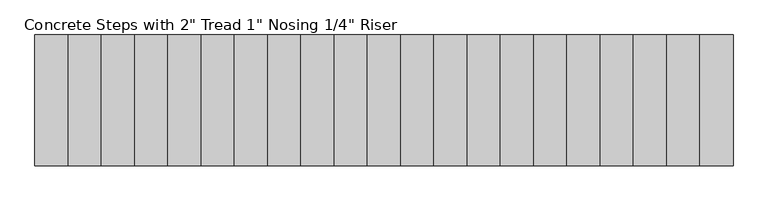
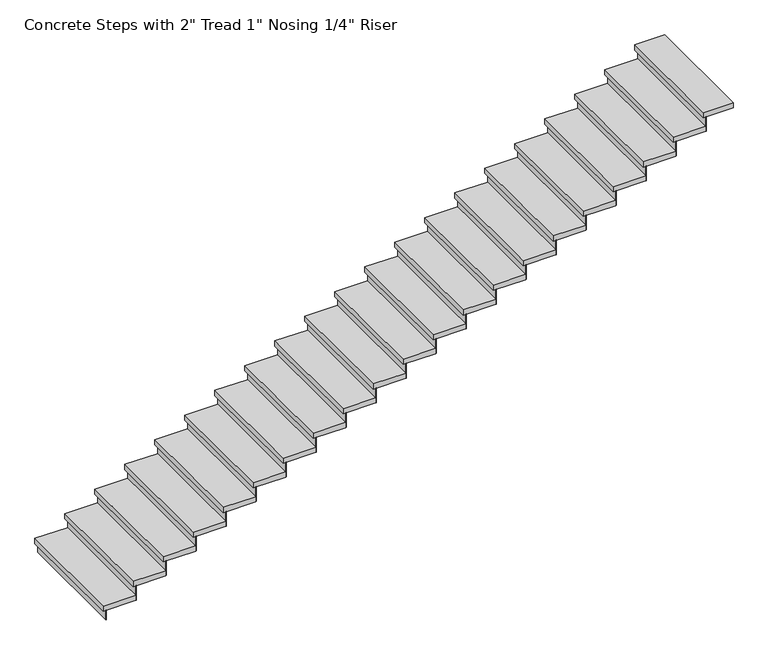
"""IFC4 building model written with IfcOpenShell, lengths in millimetres: stair flight geometry."""

from ifc_helpers import new_model, si_unit, frame, origin, origin_with_axes, place, context, project, spatial, polyline, outline, extrude, source, transform, mapped, element, save


def stair_flight_34399b1a(model_context):
    return source(origin(), model_context, "Body", "SweptSolid", [
        extrude(outline(polyline([(-38912.5313244, 8376.9937722), (-38918.8813244, 8376.9937722), (-38918.8813244, 9475.3937722), (-38912.5313244, 9475.3937722), (-38912.5313244, 8376.9937722)])), origin_with_axes(), (0.0, 0.0, 1.0), 94.3428571),
        extrude(outline(polyline([(-38639.4813244, 9475.3937722), (-38639.4813244, 8376.9937722), (-38944.2813244, 8376.9937722), (-38944.2813244, 9475.3937722), (-38639.4813244, 9475.3937722)])), frame((0.0, 0.0, 94.3428571), z_axis=(0.0, 0.0, 1.0), x_axis=(1.0, 0.0, 0.0)), (0.0, 0.0, 1.0), 50.8),
        extrude(outline(polyline([(-38633.1313244, 8376.9937722), (-38639.4813244, 8376.9937722), (-38639.4813244, 9475.3937722), (-38633.1313244, 9475.3937722), (-38633.1313244, 8376.9937722)])), frame((0.0, 0.0, 94.3428571), z_axis=(0.0, 0.0, 1.0), x_axis=(1.0, 0.0, 0.0)), (0.0, 0.0, 1.0), 145.1428571),
        extrude(outline(polyline([(-38360.0813244, 9475.3937722), (-38360.0813244, 8376.9937722), (-38664.8813244, 8376.9937722), (-38664.8813244, 9475.3937722), (-38360.0813244, 9475.3937722)])), frame((0.0, 0.0, 239.4857143), z_axis=(0.0, 0.0, 1.0), x_axis=(1.0, 0.0, 0.0)), (0.0, 0.0, 1.0), 50.8),
        extrude(outline(polyline([(-38353.7313244, 8376.9937722), (-38360.0813244, 8376.9937722), (-38360.0813244, 9475.3937722), (-38353.7313244, 9475.3937722), (-38353.7313244, 8376.9937722)])), frame((0.0, 0.0, 239.4857143), z_axis=(0.0, 0.0, 1.0), x_axis=(1.0, 0.0, 0.0)), (0.0, 0.0, 1.0), 145.1428571),
        extrude(outline(polyline([(-38080.6813244, 9475.3937722), (-38080.6813244, 8376.9937722), (-38385.4813244, 8376.9937722), (-38385.4813244, 9475.3937722), (-38080.6813244, 9475.3937722)])), frame((0.0, 0.0, 384.6285714), z_axis=(0.0, 0.0, 1.0), x_axis=(1.0, 0.0, 0.0)), (0.0, 0.0, 1.0), 50.8),
        extrude(outline(polyline([(-38074.3313244, 8376.9937722), (-38080.6813244, 8376.9937722), (-38080.6813244, 9475.3937722), (-38074.3313244, 9475.3937722), (-38074.3313244, 8376.9937722)])), frame((0.0, 0.0, 384.6285714), z_axis=(0.0, 0.0, 1.0), x_axis=(1.0, 0.0, 0.0)), (0.0, 0.0, 1.0), 145.1428571),
        extrude(outline(polyline([(-37801.2813244, 9475.3937722), (-37801.2813244, 8376.9937722), (-38106.0813244, 8376.9937722), (-38106.0813244, 9475.3937722), (-37801.2813244, 9475.3937722)])), frame((0.0, 0.0, 529.7714286), z_axis=(0.0, 0.0, 1.0), x_axis=(1.0, 0.0, 0.0)), (0.0, 0.0, 1.0), 50.8),
        extrude(outline(polyline([(-37794.9313244, 8376.9937722), (-37801.2813244, 8376.9937722), (-37801.2813244, 9475.3937722), (-37794.9313244, 9475.3937722), (-37794.9313244, 8376.9937722)])), frame((0.0, 0.0, 529.7714286), z_axis=(0.0, 0.0, 1.0), x_axis=(1.0, 0.0, 0.0)), (0.0, 0.0, 1.0), 145.1428571),
        extrude(outline(polyline([(-37521.8813244, 9475.3937722), (-37521.8813244, 8376.9937722), (-37826.6813244, 8376.9937722), (-37826.6813244, 9475.3937722), (-37521.8813244, 9475.3937722)])), frame((0.0, 0.0, 674.9142857), z_axis=(0.0, 0.0, 1.0), x_axis=(1.0, 0.0, 0.0)), (0.0, 0.0, 1.0), 50.8),
        extrude(outline(polyline([(-37515.5313244, 8376.9937722), (-37521.8813244, 8376.9937722), (-37521.8813244, 9475.3937722), (-37515.5313244, 9475.3937722), (-37515.5313244, 8376.9937722)])), frame((0.0, 0.0, 674.9142857), z_axis=(0.0, 0.0, 1.0), x_axis=(1.0, 0.0, 0.0)), (0.0, 0.0, 1.0), 145.1428571),
        extrude(outline(polyline([(-37242.4813244, 9475.3937722), (-37242.4813244, 8376.9937722), (-37547.2813244, 8376.9937722), (-37547.2813244, 9475.3937722), (-37242.4813244, 9475.3937722)])), frame((0.0, 0.0, 820.0571429), z_axis=(0.0, 0.0, 1.0), x_axis=(1.0, 0.0, 0.0)), (0.0, 0.0, 1.0), 50.8),
        extrude(outline(polyline([(-37236.1313244, 8376.9937722), (-37242.4813244, 8376.9937722), (-37242.4813244, 9475.3937722), (-37236.1313244, 9475.3937722), (-37236.1313244, 8376.9937722)])), frame((0.0, 0.0, 820.0571429), z_axis=(0.0, 0.0, 1.0), x_axis=(1.0, 0.0, 0.0)), (0.0, 0.0, 1.0), 145.1428571),
        extrude(outline(polyline([(-36963.0813244, 9475.3937722), (-36963.0813244, 8376.9937722), (-37267.8813244, 8376.9937722), (-37267.8813244, 9475.3937722), (-36963.0813244, 9475.3937722)])), frame((0.0, 0.0, 965.2), z_axis=(0.0, 0.0, 1.0), x_axis=(1.0, 0.0, 0.0)), (0.0, 0.0, 1.0), 50.8),
        extrude(outline(polyline([(-36956.7313244, 8376.9937722), (-36963.0813244, 8376.9937722), (-36963.0813244, 9475.3937722), (-36956.7313244, 9475.3937722), (-36956.7313244, 8376.9937722)])), frame((0.0, 0.0, 965.2), z_axis=(0.0, 0.0, 1.0), x_axis=(1.0, 0.0, 0.0)), (0.0, 0.0, 1.0), 145.1428571),
        extrude(outline(polyline([(-36683.6813244, 9475.3937722), (-36683.6813244, 8376.9937722), (-36988.4813244, 8376.9937722), (-36988.4813244, 9475.3937722), (-36683.6813244, 9475.3937722)])), frame((0.0, 0.0, 1110.3428571), z_axis=(0.0, 0.0, 1.0), x_axis=(1.0, 0.0, 0.0)), (0.0, 0.0, 1.0), 50.8),
        extrude(outline(polyline([(-36677.3313244, 8376.9937722), (-36683.6813244, 8376.9937722), (-36683.6813244, 9475.3937722), (-36677.3313244, 9475.3937722), (-36677.3313244, 8376.9937722)])), frame((0.0, 0.0, 1110.3428571), z_axis=(0.0, 0.0, 1.0), x_axis=(1.0, 0.0, 0.0)), (0.0, 0.0, 1.0), 145.1428571),
        extrude(outline(polyline([(-36404.2813244, 9475.3937722), (-36404.2813244, 8376.9937722), (-36709.0813244, 8376.9937722), (-36709.0813244, 9475.3937722), (-36404.2813244, 9475.3937722)])), frame((0.0, 0.0, 1255.4857143), z_axis=(0.0, 0.0, 1.0), x_axis=(1.0, 0.0, 0.0)), (0.0, 0.0, 1.0), 50.8),
        extrude(outline(polyline([(-36397.9313244, 8376.9937722), (-36404.2813244, 8376.9937722), (-36404.2813244, 9475.3937722), (-36397.9313244, 9475.3937722), (-36397.9313244, 8376.9937722)])), frame((0.0, 0.0, 1255.4857143), z_axis=(0.0, 0.0, 1.0), x_axis=(1.0, 0.0, 0.0)), (0.0, 0.0, 1.0), 145.1428571),
        extrude(outline(polyline([(-36124.8813244, 9475.3937722), (-36124.8813244, 8376.9937722), (-36429.6813244, 8376.9937722), (-36429.6813244, 9475.3937722), (-36124.8813244, 9475.3937722)])), frame((0.0, 0.0, 1400.6285714), z_axis=(0.0, 0.0, 1.0), x_axis=(1.0, 0.0, 0.0)), (0.0, 0.0, 1.0), 50.8),
        extrude(outline(polyline([(-36118.5313244, 8376.9937722), (-36124.8813244, 8376.9937722), (-36124.8813244, 9475.3937722), (-36118.5313244, 9475.3937722), (-36118.5313244, 8376.9937722)])), frame((0.0, 0.0, 1400.6285714), z_axis=(0.0, 0.0, 1.0), x_axis=(1.0, 0.0, 0.0)), (0.0, 0.0, 1.0), 145.1428571),
        extrude(outline(polyline([(-35845.4813244, 9475.3937722), (-35845.4813244, 8376.9937722), (-36150.2813244, 8376.9937722), (-36150.2813244, 9475.3937722), (-35845.4813244, 9475.3937722)])), frame((0.0, 0.0, 1545.7714286), z_axis=(0.0, 0.0, 1.0), x_axis=(1.0, 0.0, 0.0)), (0.0, 0.0, 1.0), 50.8),
        extrude(outline(polyline([(-35839.1313244, 8376.9937722), (-35845.4813244, 8376.9937722), (-35845.4813244, 9475.3937722), (-35839.1313244, 9475.3937722), (-35839.1313244, 8376.9937722)])), frame((0.0, 0.0, 1545.7714286), z_axis=(0.0, 0.0, 1.0), x_axis=(1.0, 0.0, 0.0)), (0.0, 0.0, 1.0), 145.1428571),
        extrude(outline(polyline([(-35566.0813244, 9475.3937722), (-35566.0813244, 8376.9937722), (-35870.8813244, 8376.9937722), (-35870.8813244, 9475.3937722), (-35566.0813244, 9475.3937722)])), frame((0.0, 0.0, 1690.9142857), z_axis=(0.0, 0.0, 1.0), x_axis=(1.0, 0.0, 0.0)), (0.0, 0.0, 1.0), 50.8),
        extrude(outline(polyline([(-35559.7313244, 8376.9937722), (-35566.0813244, 8376.9937722), (-35566.0813244, 9475.3937722), (-35559.7313244, 9475.3937722), (-35559.7313244, 8376.9937722)])), frame((0.0, 0.0, 1690.9142857), z_axis=(0.0, 0.0, 1.0), x_axis=(1.0, 0.0, 0.0)), (0.0, 0.0, 1.0), 145.1428571),
        extrude(outline(polyline([(-35286.6813244, 9475.3937722), (-35286.6813244, 8376.9937722), (-35591.4813244, 8376.9937722), (-35591.4813244, 9475.3937722), (-35286.6813244, 9475.3937722)])), frame((0.0, 0.0, 1836.0571429), z_axis=(0.0, 0.0, 1.0), x_axis=(1.0, 0.0, 0.0)), (0.0, 0.0, 1.0), 50.8),
        extrude(outline(polyline([(-35280.3313244, 8376.9937722), (-35286.6813244, 8376.9937722), (-35286.6813244, 9475.3937722), (-35280.3313244, 9475.3937722), (-35280.3313244, 8376.9937722)])), frame((0.0, 0.0, 1836.0571429), z_axis=(0.0, 0.0, 1.0), x_axis=(1.0, 0.0, 0.0)), (0.0, 0.0, 1.0), 145.1428571),
        extrude(outline(polyline([(-35007.2813244, 9475.3937722), (-35007.2813244, 8376.9937722), (-35312.0813244, 8376.9937722), (-35312.0813244, 9475.3937722), (-35007.2813244, 9475.3937722)])), frame((0.0, 0.0, 1981.2), z_axis=(0.0, 0.0, 1.0), x_axis=(1.0, 0.0, 0.0)), (0.0, 0.0, 1.0), 50.8),
        extrude(outline(polyline([(-35000.9313244, 8376.9937722), (-35007.2813244, 8376.9937722), (-35007.2813244, 9475.3937722), (-35000.9313244, 9475.3937722), (-35000.9313244, 8376.9937722)])), frame((0.0, 0.0, 1981.2), z_axis=(0.0, 0.0, 1.0), x_axis=(1.0, 0.0, 0.0)), (0.0, 0.0, 1.0), 145.1428571),
        extrude(outline(polyline([(-34727.8813244, 9475.3937722), (-34727.8813244, 8376.9937722), (-35032.6813244, 8376.9937722), (-35032.6813244, 9475.3937722), (-34727.8813244, 9475.3937722)])), frame((0.0, 0.0, 2126.3428571), z_axis=(0.0, 0.0, 1.0), x_axis=(1.0, 0.0, 0.0)), (0.0, 0.0, 1.0), 50.8),
        extrude(outline(polyline([(-34721.5313244, 8376.9937722), (-34727.8813244, 8376.9937722), (-34727.8813244, 9475.3937722), (-34721.5313244, 9475.3937722), (-34721.5313244, 8376.9937722)])), frame((0.0, 0.0, 2126.3428571), z_axis=(0.0, 0.0, 1.0), x_axis=(1.0, 0.0, 0.0)), (0.0, 0.0, 1.0), 145.1428571),
        extrude(outline(polyline([(-34448.4813244, 9475.3937722), (-34448.4813244, 8376.9937722), (-34753.2813244, 8376.9937722), (-34753.2813244, 9475.3937722), (-34448.4813244, 9475.3937722)])), frame((0.0, 0.0, 2271.4857143), z_axis=(0.0, 0.0, 1.0), x_axis=(1.0, 0.0, 0.0)), (0.0, 0.0, 1.0), 50.8),
        extrude(outline(polyline([(-34442.1313244, 8376.9937722), (-34448.4813244, 8376.9937722), (-34448.4813244, 9475.3937722), (-34442.1313244, 9475.3937722), (-34442.1313244, 8376.9937722)])), frame((0.0, 0.0, 2271.4857143), z_axis=(0.0, 0.0, 1.0), x_axis=(1.0, 0.0, 0.0)), (0.0, 0.0, 1.0), 145.1428571),
        extrude(outline(polyline([(-34169.0813244, 9475.3937722), (-34169.0813244, 8376.9937722), (-34473.8813244, 8376.9937722), (-34473.8813244, 9475.3937722), (-34169.0813244, 9475.3937722)])), frame((0.0, 0.0, 2416.6285714), z_axis=(0.0, 0.0, 1.0), x_axis=(1.0, 0.0, 0.0)), (0.0, 0.0, 1.0), 50.8),
        extrude(outline(polyline([(-34162.7313244, 8376.9937722), (-34169.0813244, 8376.9937722), (-34169.0813244, 9475.3937722), (-34162.7313244, 9475.3937722), (-34162.7313244, 8376.9937722)])), frame((0.0, 0.0, 2416.6285714), z_axis=(0.0, 0.0, 1.0), x_axis=(1.0, 0.0, 0.0)), (0.0, 0.0, 1.0), 145.1428571),
        extrude(outline(polyline([(-33889.6813244, 9475.3937722), (-33889.6813244, 8376.9937722), (-34194.4813244, 8376.9937722), (-34194.4813244, 9475.3937722), (-33889.6813244, 9475.3937722)])), frame((0.0, 0.0, 2561.7714286), z_axis=(0.0, 0.0, 1.0), x_axis=(1.0, 0.0, 0.0)), (0.0, 0.0, 1.0), 50.8),
        extrude(outline(polyline([(-33883.3313244, 8376.9937722), (-33889.6813244, 8376.9937722), (-33889.6813244, 9475.3937722), (-33883.3313244, 9475.3937722), (-33883.3313244, 8376.9937722)])), frame((0.0, 0.0, 2561.7714286), z_axis=(0.0, 0.0, 1.0), x_axis=(1.0, 0.0, 0.0)), (0.0, 0.0, 1.0), 145.1428571),
        extrude(outline(polyline([(-33610.2813244, 9475.3937722), (-33610.2813244, 8376.9937722), (-33915.0813244, 8376.9937722), (-33915.0813244, 9475.3937722), (-33610.2813244, 9475.3937722)])), frame((0.0, 0.0, 2706.9142857), z_axis=(0.0, 0.0, 1.0), x_axis=(1.0, 0.0, 0.0)), (0.0, 0.0, 1.0), 50.8),
        extrude(outline(polyline([(-33603.9313244, 8376.9937722), (-33610.2813244, 8376.9937722), (-33610.2813244, 9475.3937722), (-33603.9313244, 9475.3937722), (-33603.9313244, 8376.9937722)])), frame((0.0, 0.0, 2706.9142857), z_axis=(0.0, 0.0, 1.0), x_axis=(1.0, 0.0, 0.0)), (0.0, 0.0, 1.0), 145.1428571),
        extrude(outline(polyline([(-33330.8813244, 9475.3937722), (-33330.8813244, 8376.9937722), (-33635.6813244, 8376.9937722), (-33635.6813244, 9475.3937722), (-33330.8813244, 9475.3937722)])), frame((0.0, 0.0, 2852.0571429), z_axis=(0.0, 0.0, 1.0), x_axis=(1.0, 0.0, 0.0)), (0.0, 0.0, 1.0), 50.8),
        extrude(outline(polyline([(-33324.5313244, 8376.9937722), (-33330.8813244, 8376.9937722), (-33330.8813244, 9475.3937722), (-33324.5313244, 9475.3937722), (-33324.5313244, 8376.9937722)])), frame((0.0, 0.0, 2852.0571429), z_axis=(0.0, 0.0, 1.0), x_axis=(1.0, 0.0, 0.0)), (0.0, 0.0, 1.0), 145.1428571),
        extrude(outline(polyline([(-33076.8813244, 9475.3937722), (-33076.8813244, 8376.9937722), (-33356.2813244, 8376.9937722), (-33356.2813244, 9475.3937722), (-33076.8813244, 9475.3937722)])), frame((0.0, 0.0, 2997.2), z_axis=(0.0, 0.0, 1.0), x_axis=(1.0, 0.0, 0.0)), (0.0, 0.0, 1.0), 50.8),
    ])


if __name__ == "__main__":
    model = new_model("IFC4")
    model_context = context("Model", 3, world=origin())
    ifc_project = project(units=[si_unit("LENGTHUNIT", "METRE", prefix="MILLI")], contexts=[model_context])
    site = spatial("IfcSite", under=ifc_project)
    building = spatial("IfcBuilding", under=site)
    placement = place(None, origin())
    stair_flight_shape = stair_flight_34399b1a(model_context)
    element("IfcStairFlight", 1, ObjectType="Concrete Steps with 2\" Tread 1\" Nosing 1/4\" Riser", at=placement, inside=building, context=model_context, shape_type="MappedRepresentation", body=[
        mapped(stair_flight_shape, transform((0.0, 0.0, 0.0), x_axis=(1.0, 0.0, 0.0), y_axis=(0.0, 1.0, 0.0), z_axis=(0.0, 0.0, 1.0))),
    ])
    save(model, "model.ifc")
